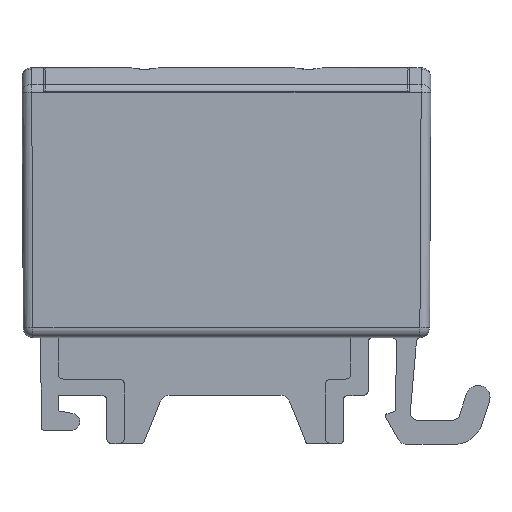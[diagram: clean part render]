
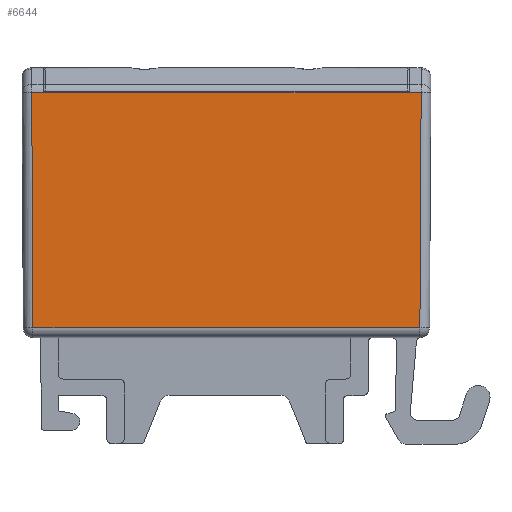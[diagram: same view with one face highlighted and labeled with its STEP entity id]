
A CAD part, front view. The second image highlights one B-rep face of the part: STEP entity #6644.
In plain terms, the highlighted planar face has unit normal (0, -1, 0).
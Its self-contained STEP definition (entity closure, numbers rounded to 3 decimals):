
#2169=DIRECTION('',(-0.005,0.,-1.));
#2170=VECTOR('',#2169,24.415);
#2171=CARTESIAN_POINT('',(20.202,-6.749,
-0.586));
#2172=LINE('',#2171,#2170);
#2173=DIRECTION('',(1.,0.,0.));
#2174=VECTOR('',#2173,40.149);
#2175=CARTESIAN_POINT('',(-20.074,-6.75,-25.));
#2176=LINE('',#2175,#2174);
#2177=DIRECTION('',(0.005,0.,-1.));
#2178=VECTOR('',#2177,24.415);
#2179=CARTESIAN_POINT('',(-20.202,-6.749,
-0.586));
#2180=LINE('',#2179,#2178);
#2181=DIRECTION('',(1.,0.,0.));
#2182=VECTOR('',#2181,40.404);
#2183=CARTESIAN_POINT('',(-20.202,-6.749,
-0.586));
#2184=LINE('',#2183,#2182);
#3509=CARTESIAN_POINT('',(20.202,-6.749,
-0.586));
#3510=VERTEX_POINT('',#3509);
#3511=CARTESIAN_POINT('',(20.074,-6.75,-25.));
#3512=VERTEX_POINT('',#3511);
#3526=CARTESIAN_POINT('',(-20.074,-6.75,-25.));
#3527=VERTEX_POINT('',#3526);
#3550=CARTESIAN_POINT('',(-20.202,-6.749,
-0.586));
#3551=VERTEX_POINT('',#3550);
#6632=CARTESIAN_POINT('',(0.,-6.75,0.));
#6633=DIRECTION('',(0.,1.,0.));
#6634=DIRECTION('',(0.,0.,1.));
#6635=AXIS2_PLACEMENT_3D('',#6632,#6633,#6634);
#6636=PLANE('',#6635);
#6637=ORIENTED_EDGE('',*,*,#6624,.T.);
#6638=ORIENTED_EDGE('',*,*,#4889,.F.);
#6640=ORIENTED_EDGE('',*,*,#6639,.F.);
#6641=ORIENTED_EDGE('',*,*,#6594,.T.);
#6642=EDGE_LOOP('',(#6637,#6638,#6640,#6641));
#6643=FACE_OUTER_BOUND('',#6642,.F.);
#4889=EDGE_CURVE('',#3527,#3512,#2176,.T.);
#6594=EDGE_CURVE('',#3551,#3510,#2184,.T.);
#6624=EDGE_CURVE('',#3510,#3512,#2172,.T.);
#6639=EDGE_CURVE('',#3551,#3527,#2180,.T.);
#6644=ADVANCED_FACE('',(#6643),#6636,.F.);
